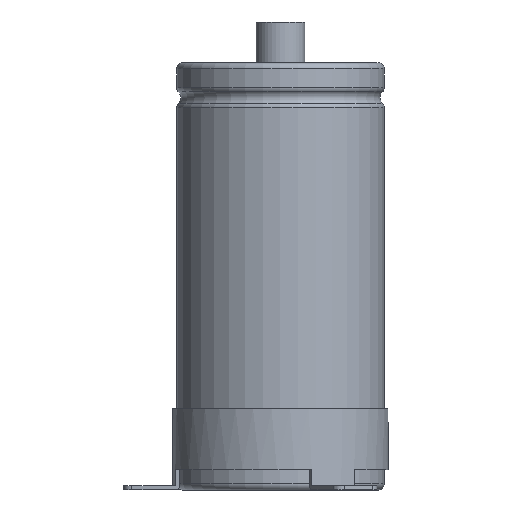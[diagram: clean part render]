
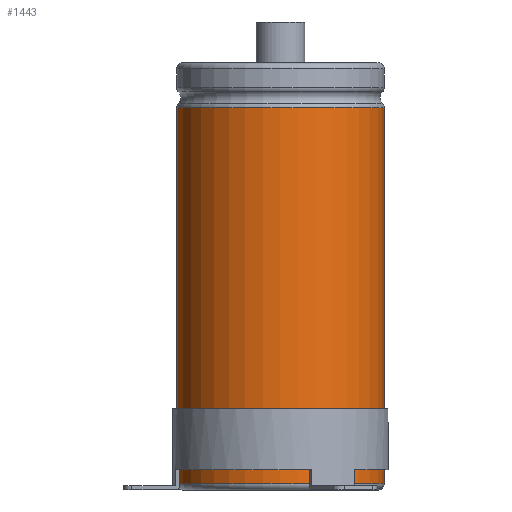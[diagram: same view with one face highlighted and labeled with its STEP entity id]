
A CAD part, front view. The second image highlights one B-rep face of the part: STEP entity #1443.
In plain terms, the highlighted cylindrical face has radius 25.5 mm (diameter 51 mm), a partial arc.
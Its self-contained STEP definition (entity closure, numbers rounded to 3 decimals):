
#421=LINE('',#8075,#635);
#422=LINE('',#8079,#636);
#635=VECTOR('',#5948,1.);
#636=VECTOR('',#5951,1.);
#1096=FACE_OUTER_BOUND('',#1908,.T.);
#1443=ADVANCED_FACE('',(#1096),#1554,.T.);
#1554=CYLINDRICAL_SURFACE('',#4869,25.5);
#1908=EDGE_LOOP('',(#2925,#2926,#2927,#2928));
#2925=ORIENTED_EDGE('',*,*,#4079,.T.);
#2926=ORIENTED_EDGE('',*,*,#4080,.T.);
#2927=ORIENTED_EDGE('',*,*,#4081,.F.);
#2928=ORIENTED_EDGE('',*,*,#4082,.F.);
#3512=VERTEX_POINT('',#8068);
#3514=VERTEX_POINT('',#8072);
#3515=VERTEX_POINT('',#8076);
#3516=VERTEX_POINT('',#8078);
#4079=EDGE_CURVE('',#3512,#3514,#4398,.T.);
#4080=EDGE_CURVE('',#3514,#3515,#421,.T.);
#4081=EDGE_CURVE('',#3516,#3515,#4399,.T.);
#4082=EDGE_CURVE('',#3512,#3516,#422,.T.);
#4398=CIRCLE('',#4866,25.5);
#4399=CIRCLE('',#4868,25.5);
#4866=AXIS2_PLACEMENT_3D('',#8073,#5944,#5945);
#4868=AXIS2_PLACEMENT_3D('',#8077,#5949,#5950);
#4869=AXIS2_PLACEMENT_3D('',#8080,#5952,#5953);
#5944=DIRECTION('',(0.,0.,-1.));
#5945=DIRECTION('',(0.,1.,0.));
#5948=DIRECTION('',(0.,0.,-1.));
#5949=DIRECTION('',(0.,0.,-1.));
#5950=DIRECTION('',(0.,1.,0.));
#5951=DIRECTION('',(0.,0.,-1.));
#5952=DIRECTION('',(0.,0.,-1.));
#5953=DIRECTION('',(0.,1.,0.));
#8068=CARTESIAN_POINT('',(5.084,24.988,93.9));
#8072=CARTESIAN_POINT('',(-5.084,24.988,93.9));
#8073=CARTESIAN_POINT('',(0.,0.,93.9));
#8075=CARTESIAN_POINT('',(-5.084,24.988,93.9));
#8076=CARTESIAN_POINT('',(-5.084,24.988,1.5));
#8077=CARTESIAN_POINT('',(0.,0.,1.5));
#8078=CARTESIAN_POINT('',(5.084,24.988,1.5));
#8079=CARTESIAN_POINT('',(5.084,24.988,93.9));
#8080=CARTESIAN_POINT('',(0.,0.,0.));
